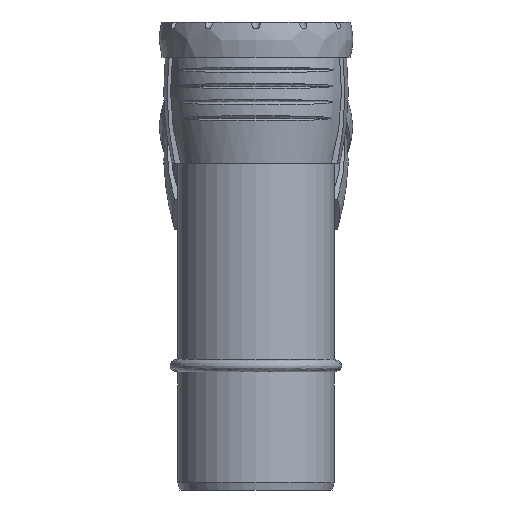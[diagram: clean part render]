
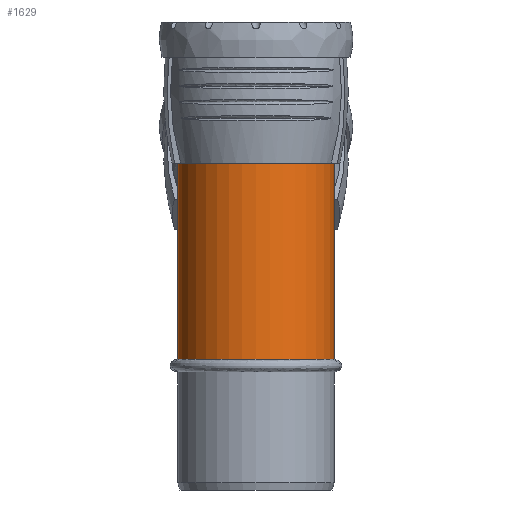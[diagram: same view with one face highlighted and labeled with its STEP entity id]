
A CAD part, left-side view. The second image highlights one B-rep face of the part: STEP entity #1629.
In plain terms, the highlighted cylindrical face has radius 37.6 mm (diameter 75.2 mm), a full revolution.
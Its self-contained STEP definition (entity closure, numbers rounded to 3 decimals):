
#152=ELLIPSE('',#1749,53.174,37.6);
#154=ELLIPSE('',#1754,98.254,37.6);
#155=ELLIPSE('',#1755,98.254,37.6);
#156=ELLIPSE('',#1756,40.698,37.6);
#244=FACE_BOUND('',#403,.T.);
#245=FACE_BOUND('',#404,.T.);
#246=FACE_BOUND('',#405,.T.);
#403=EDGE_LOOP('',(#1036,#1037,#1038,#1039));
#404=EDGE_LOOP('',(#1040));
#405=EDGE_LOOP('',(#1041));
#543=CIRCLE('',#1758,37.6);
#544=CIRCLE('',#1759,37.6);
#617=VERTEX_POINT('',#2296);
#618=VERTEX_POINT('',#2297);
#619=VERTEX_POINT('',#2303);
#620=VERTEX_POINT('',#2305);
#621=VERTEX_POINT('',#2309);
#622=VERTEX_POINT('',#2311);
#790=EDGE_CURVE('',#617,#618,#152,.T.);
#793=EDGE_CURVE('',#618,#619,#154,.T.);
#794=EDGE_CURVE('',#620,#617,#155,.T.);
#795=EDGE_CURVE('',#619,#620,#156,.T.);
#796=EDGE_CURVE('',#621,#621,#543,.T.);
#797=EDGE_CURVE('',#622,#622,#544,.T.);
#1036=ORIENTED_EDGE('',*,*,#790,.T.);
#1037=ORIENTED_EDGE('',*,*,#793,.T.);
#1038=ORIENTED_EDGE('',*,*,#795,.T.);
#1039=ORIENTED_EDGE('',*,*,#794,.T.);
#1040=ORIENTED_EDGE('',*,*,#796,.T.);
#1041=ORIENTED_EDGE('',*,*,#797,.F.);
#1475=CYLINDRICAL_SURFACE('',#1757,37.6);
#1629=ADVANCED_FACE('',(#244,#245,#246),#1475,.T.);
#1749=AXIS2_PLACEMENT_3D('',#2298,#1931,#1932);
#1754=AXIS2_PLACEMENT_3D('',#2304,#1941,#1942);
#1755=AXIS2_PLACEMENT_3D('',#2306,#1943,#1944);
#1756=AXIS2_PLACEMENT_3D('',#2307,#1945,#1946);
#1757=AXIS2_PLACEMENT_3D('',#2308,#1947,#1948);
#1758=AXIS2_PLACEMENT_3D('',#2310,#1949,#1950);
#1759=AXIS2_PLACEMENT_3D('',#2312,#1951,#1952);
#1931=DIRECTION('center_axis',(0.707,0.,
0.707));
#1932=DIRECTION('ref_axis',(-0.707,0.,0.707));
#1941=DIRECTION('center_axis',(-0.924,0.,
0.383));
#1942=DIRECTION('ref_axis',(-0.383,0.,-0.924));
#1943=DIRECTION('center_axis',(-0.924,0.,
0.383));
#1944=DIRECTION('ref_axis',(-0.383,0.,-0.924));
#1945=DIRECTION('center_axis',(-0.383,0.,
-0.924));
#1946=DIRECTION('ref_axis',(0.924,0.,-0.383));
#1947=DIRECTION('center_axis',(0.,0.,
-1.));
#1948=DIRECTION('ref_axis',(0.,-1.,0.));
#1949=DIRECTION('center_axis',(0.,0.,
-1.));
#1950=DIRECTION('ref_axis',(-1.,0.,0.));
#1951=DIRECTION('center_axis',(0.,0.,
-1.));
#1952=DIRECTION('ref_axis',(-1.,0.,0.));
#2296=CARTESIAN_POINT('',(33.737,-16.6,156.248));
#2297=CARTESIAN_POINT('',(33.737,16.6,156.248));
#2298=CARTESIAN_POINT('Origin',(0.,0.,
189.986));
#2303=CARTESIAN_POINT('',(0.,37.6,74.8));
#2304=CARTESIAN_POINT('Origin',(0.,0.,
74.8));
#2305=CARTESIAN_POINT('',(0.,-37.6,74.8));
#2306=CARTESIAN_POINT('Origin',(0.,0.,
74.8));
#2307=CARTESIAN_POINT('Origin',(0.,0.,
74.8));
#2308=CARTESIAN_POINT('Origin',(0.,0.,
106.84));
#2309=CARTESIAN_POINT('',(0.,-37.6,156.98));
#2310=CARTESIAN_POINT('Origin',(0.,0.,
156.98));
#2311=CARTESIAN_POINT('',(0.,-37.6,56.7));
#2312=CARTESIAN_POINT('Origin',(0.,0.,56.7));
